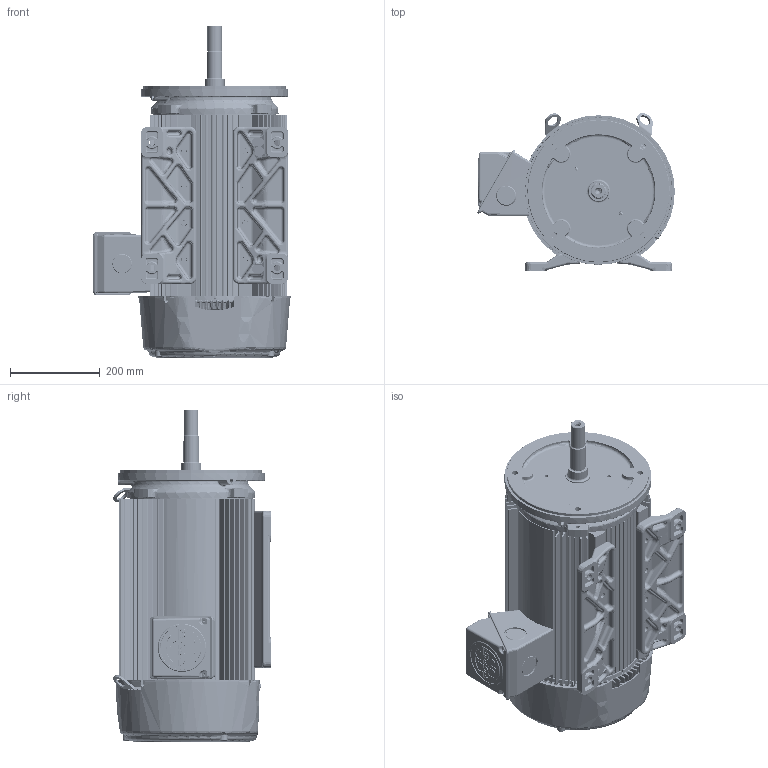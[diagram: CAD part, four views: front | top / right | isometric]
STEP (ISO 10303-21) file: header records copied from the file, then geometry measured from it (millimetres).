
FILE_DESCRIPTION((''),'2;1');
FILE_NAME('CCP_CFACE_ASM','2016-02-29T',('EMD2341'),('Nidec Motor Corporation'),'PRO/ENGINEER BY PARAMETRIC TECHNOLOGY CORPORATION, 2013150','PRO/ENGINEER BY PARAMETRIC TECHNOLOGY CORPORATION, 2013150','');
FILE_SCHEMA(('CONFIG_CONTROL_DESIGN'));
Length unit declared in the file: inch
Products named in the file (13): 0367969_AF0; 1001039; 0375099-BKT_AF2; 2033996-004_AF0; 0375600_ASM; 0561420; 0369711; 0364285; 0368171; 0369733; 0364282-OBB; 0364292; CCP_CFACE_ASM
Assembly tree (14 placements, depth 3):
  CCP_CFACE_ASM
    0367969_AF0
    1001039
    0375600_ASM
      0375099-BKT_AF2
      2033996-004_AF0
    0561420
    0369711
    0364285
    0368171  x2
    0369733  x2
    0364282-OBB
    0364292
Bounding box: 440.72 x 351.71 x 740.67 mm (x, y, z)
Volume: 11078797.8 mm3; surface area: 3331079.1 mm2
Topology: 15 solids, 15 shells, 9686 faces, 22955 edges, 13276 vertices
Faces by surface type: bspline 5001, cylinder 1642, plane 1398, torus 908, cone 552, sphere 185
Entity records: 481568 total; most frequent: CARTESIAN_POINT 304277, ORIENTED_EDGE 43108, DIRECTION 28400, EDGE_CURVE 21554, VERTEX_POINT 12497, AXIS2_PLACEMENT_3D 11634, EDGE_LOOP 9315, B_SPLINE_CURVE_WITH_KNOTS 9128
